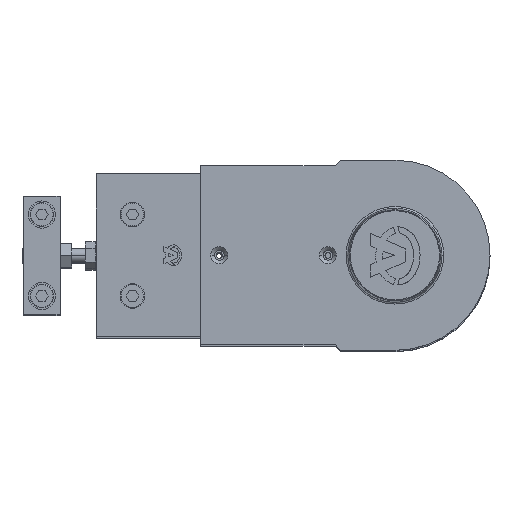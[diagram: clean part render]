
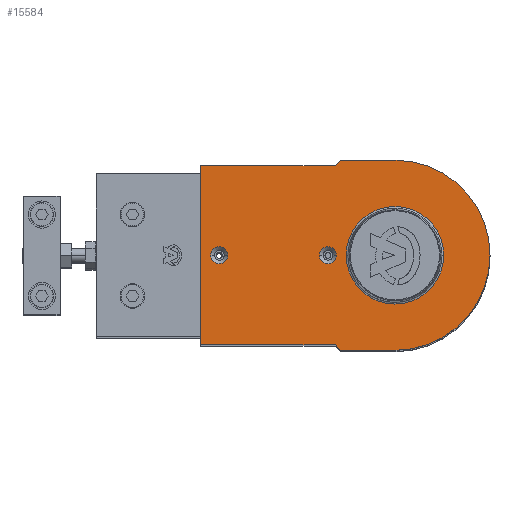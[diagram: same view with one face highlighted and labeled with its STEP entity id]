
A CAD part, top view. The second image highlights one B-rep face of the part: STEP entity #15584.
In plain terms, the highlighted planar face has unit normal (0, 0, 1).
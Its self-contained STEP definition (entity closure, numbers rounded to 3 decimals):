
#52 = ORIENTED_EDGE ( 'NONE', *, *, #10085, .T. ) ;
#514 = ORIENTED_EDGE ( 'NONE', *, *, #18884, .T. ) ;
#1211 = CARTESIAN_POINT ( 'NONE',  ( 107.5, 49.5, 0. ) ) ;
#1289 = LINE ( 'NONE', #9722, #18085 ) ;
#1523 = CIRCLE ( 'NONE', #4636, 4.7 ) ;
#1539 = DIRECTION ( 'NONE',  ( 1., 0., 0. ) ) ;
#1548 = CARTESIAN_POINT ( 'NONE',  ( 26.933, 0., 0. ) ) ;
#1627 = VERTEX_POINT ( 'NONE', #2914 ) ;
#1924 = LINE ( 'NONE', #5654, #10575 ) ;
#1994 = CARTESIAN_POINT ( 'NONE',  ( 0., 0., 0. ) ) ;
#2098 = DIRECTION ( 'NONE',  ( 1., 0., 0. ) ) ;
#2115 = VERTEX_POINT ( 'NONE', #18829 ) ;
#2247 = VERTEX_POINT ( 'NONE', #10979 ) ;
#2360 = AXIS2_PLACEMENT_3D ( 'NONE', #1994, #8679, #16645 ) ;
#2914 = CARTESIAN_POINT ( 'NONE',  ( 0., -52.5, 0. ) ) ;
#2922 = EDGE_LOOP ( 'NONE', ( #6644, #17046 ) ) ;
#3020 = AXIS2_PLACEMENT_3D ( 'NONE', #15273, #6959, #13482 ) ;
#3099 = EDGE_CURVE ( 'NONE', #15368, #15651, #14388, .T. ) ;
#3507 = FACE_BOUND ( 'NONE', #17435, .T. ) ;
#3887 = EDGE_LOOP ( 'NONE', ( #15491, #17709, #11322, #4602, #52, #514, #16163, #10273 ) ) ;
#4004 = CARTESIAN_POINT ( 'NONE',  ( 33., 49.5, 0. ) ) ;
#4340 = CARTESIAN_POINT ( 'NONE',  ( 0., 52.5, 0. ) ) ;
#4476 = CARTESIAN_POINT ( 'NONE',  ( 41.7, 0., 0. ) ) ;
#4602 = ORIENTED_EDGE ( 'NONE', *, *, #5659, .T. ) ;
#4636 = AXIS2_PLACEMENT_3D ( 'NONE', #10772, #17128, #5679 ) ;
#4654 = AXIS2_PLACEMENT_3D ( 'NONE', #5974, #7602, #10859 ) ;
#4820 = DIRECTION ( 'NONE',  ( 0.707, 0.707, 0. ) ) ;
#5139 = EDGE_CURVE ( 'NONE', #12649, #10604, #13801, .T. ) ;
#5504 = VERTEX_POINT ( 'NONE', #4476 ) ;
#5533 = VERTEX_POINT ( 'NONE', #1211 ) ;
#5654 = CARTESIAN_POINT ( 'NONE',  ( 107.5, -49.5, 0. ) ) ;
#5659 = EDGE_CURVE ( 'NONE', #15651, #11634, #8205, .T. ) ;
#5679 = DIRECTION ( 'NONE',  ( 1., 0., 0. ) ) ;
#5917 = VERTEX_POINT ( 'NONE', #7008 ) ;
#5974 = CARTESIAN_POINT ( 'NONE',  ( 0., 0., 0. ) ) ;
#6042 = DIRECTION ( 'NONE',  ( 0., 0., 1. ) ) ;
#6161 = CARTESIAN_POINT ( 'NONE',  ( 33., -49.5, 0. ) ) ;
#6320 = CARTESIAN_POINT ( 'NONE',  ( 30., 52.5, 0. ) ) ;
#6421 = EDGE_CURVE ( 'NONE', #2247, #8130, #6891, .T. ) ;
#6437 = AXIS2_PLACEMENT_3D ( 'NONE', #17960, #9987, #1539 ) ;
#6644 = ORIENTED_EDGE ( 'NONE', *, *, #9010, .F. ) ;
#6721 = EDGE_CURVE ( 'NONE', #5533, #15368, #13743, .T. ) ;
#6891 = CIRCLE ( 'NONE', #16423, 26.933 ) ;
#6959 = DIRECTION ( 'NONE',  ( 0., 0., 1. ) ) ;
#7008 = CARTESIAN_POINT ( 'NONE',  ( 33., -49.5, 0. ) ) ;
#7097 = CARTESIAN_POINT ( 'NONE',  ( 33., 49.5, 0. ) ) ;
#7139 = VECTOR ( 'NONE', #9418, 1000. ) ;
#7482 = DIRECTION ( 'NONE',  ( 0., 1., 0. ) ) ;
#7492 = LINE ( 'NONE', #6161, #14615 ) ;
#7602 = DIRECTION ( 'NONE',  ( 0., 0., 1. ) ) ;
#7827 = EDGE_CURVE ( 'NONE', #5504, #2115, #1523, .T. ) ;
#8018 = ORIENTED_EDGE ( 'NONE', *, *, #7827, .F. ) ;
#8063 = CIRCLE ( 'NONE', #6437, 52.5 ) ;
#8130 = VERTEX_POINT ( 'NONE', #1548 ) ;
#8205 = LINE ( 'NONE', #17851, #15068 ) ;
#8376 = DIRECTION ( 'NONE',  ( 1., 0., 0. ) ) ;
#8679 = DIRECTION ( 'NONE',  ( 0., 0., -1. ) ) ;
#9010 = EDGE_CURVE ( 'NONE', #10604, #12649, #15486, .T. ) ;
#9053 = ORIENTED_EDGE ( 'NONE', *, *, #6421, .T. ) ;
#9418 = DIRECTION ( 'NONE',  ( -1., 0., 0. ) ) ;
#9548 = CIRCLE ( 'NONE', #2360, 26.933 ) ;
#9722 = CARTESIAN_POINT ( 'NONE',  ( 107.5, -49.5, 0. ) ) ;
#9987 = DIRECTION ( 'NONE',  ( 0., 0., 1. ) ) ;
#10085 = EDGE_CURVE ( 'NONE', #11634, #1627, #8063, .T. ) ;
#10112 = DIRECTION ( 'NONE',  ( 0., 0., -1. ) ) ;
#10186 = CARTESIAN_POINT ( 'NONE',  ( 0., 0., 0. ) ) ;
#10255 = DIRECTION ( 'NONE',  ( 1., 0., 0. ) ) ;
#10273 = ORIENTED_EDGE ( 'NONE', *, *, #21010, .T. ) ;
#10575 = VECTOR ( 'NONE', #7482, 1000. ) ;
#10604 = VERTEX_POINT ( 'NONE', #16020 ) ;
#10772 = CARTESIAN_POINT ( 'NONE',  ( 37., 0., 0. ) ) ;
#10849 = EDGE_CURVE ( 'NONE', #8130, #2247, #9548, .T. ) ;
#10859 = DIRECTION ( 'NONE',  ( 1., 0., 0. ) ) ;
#10979 = CARTESIAN_POINT ( 'NONE',  ( -26.933, 0., 0. ) ) ;
#11322 = ORIENTED_EDGE ( 'NONE', *, *, #3099, .T. ) ;
#11392 = VERTEX_POINT ( 'NONE', #14833 ) ;
#11634 = VERTEX_POINT ( 'NONE', #4340 ) ;
#11805 = DIRECTION ( 'NONE',  ( 0., 0., 1. ) ) ;
#11913 = DIRECTION ( 'NONE',  ( -0.707, 0.707, 0. ) ) ;
#12387 = EDGE_CURVE ( 'NONE', #11392, #5917, #7492, .T. ) ;
#12424 = PLANE ( 'NONE',  #4654 ) ;
#12649 = VERTEX_POINT ( 'NONE', #19964 ) ;
#12739 = CARTESIAN_POINT ( 'NONE',  ( 107.5, 49.5, 0. ) ) ;
#12835 = EDGE_LOOP ( 'NONE', ( #20290, #9053 ) ) ;
#12941 = DIRECTION ( 'NONE',  ( 1., 0., 0. ) ) ;
#13482 = DIRECTION ( 'NONE',  ( 1., 0., 0. ) ) ;
#13659 = FACE_OUTER_BOUND ( 'NONE', #3887, .T. ) ;
#13743 = LINE ( 'NONE', #12739, #7139 ) ;
#13801 = CIRCLE ( 'NONE', #20247, 4.7 ) ;
#14388 = LINE ( 'NONE', #7097, #19246 ) ;
#14615 = VECTOR ( 'NONE', #4820, 1000. ) ;
#14833 = CARTESIAN_POINT ( 'NONE',  ( 30., -52.5, 0. ) ) ;
#14859 = CIRCLE ( 'NONE', #19430, 4.7 ) ;
#14934 = FACE_BOUND ( 'NONE', #12835, .T. ) ;
#15068 = VECTOR ( 'NONE', #17781, 1000. ) ;
#15238 = ORIENTED_EDGE ( 'NONE', *, *, #18390, .F. ) ;
#15273 = CARTESIAN_POINT ( 'NONE',  ( 97., 0., 0. ) ) ;
#15368 = VERTEX_POINT ( 'NONE', #4004 ) ;
#15486 = CIRCLE ( 'NONE', #3020, 4.7 ) ;
#15491 = ORIENTED_EDGE ( 'NONE', *, *, #16761, .T. ) ;
#15584 = ADVANCED_FACE ( 'NONE', ( #14934, #3507, #16479, #13659 ), #12424, .T. ) ;
#15651 = VERTEX_POINT ( 'NONE', #6320 ) ;
#15696 = CARTESIAN_POINT ( 'NONE',  ( 107.5, -49.5, 0. ) ) ;
#15774 = CARTESIAN_POINT ( 'NONE',  ( 97., 0., 0. ) ) ;
#16020 = CARTESIAN_POINT ( 'NONE',  ( 101.7, 0., 0. ) ) ;
#16163 = ORIENTED_EDGE ( 'NONE', *, *, #12387, .T. ) ;
#16232 = CARTESIAN_POINT ( 'NONE',  ( 30., -52.5, 0. ) ) ;
#16423 = AXIS2_PLACEMENT_3D ( 'NONE', #10186, #10112, #10255 ) ;
#16479 = FACE_BOUND ( 'NONE', #2922, .T. ) ;
#16645 = DIRECTION ( 'NONE',  ( 1., 0., 0. ) ) ;
#16761 = EDGE_CURVE ( 'NONE', #19802, #5533, #1924, .T. ) ;
#17046 = ORIENTED_EDGE ( 'NONE', *, *, #5139, .F. ) ;
#17128 = DIRECTION ( 'NONE',  ( 0., 0., 1. ) ) ;
#17435 = EDGE_LOOP ( 'NONE', ( #8018, #15238 ) ) ;
#17486 = DIRECTION ( 'NONE',  ( 1., 0., 0. ) ) ;
#17709 = ORIENTED_EDGE ( 'NONE', *, *, #6721, .T. ) ;
#17781 = DIRECTION ( 'NONE',  ( -1., 0., 0. ) ) ;
#17851 = CARTESIAN_POINT ( 'NONE',  ( 30., 52.5, 0. ) ) ;
#17960 = CARTESIAN_POINT ( 'NONE',  ( 0., 0., 0. ) ) ;
#18085 = VECTOR ( 'NONE', #8376, 1000. ) ;
#18317 = CARTESIAN_POINT ( 'NONE',  ( 37., 0., 0. ) ) ;
#18390 = EDGE_CURVE ( 'NONE', #2115, #5504, #14859, .T. ) ;
#18829 = CARTESIAN_POINT ( 'NONE',  ( 32.3, 0., 0. ) ) ;
#18884 = EDGE_CURVE ( 'NONE', #1627, #11392, #21001, .T. ) ;
#19246 = VECTOR ( 'NONE', #11913, 1000. ) ;
#19430 = AXIS2_PLACEMENT_3D ( 'NONE', #18317, #11805, #2098 ) ;
#19802 = VERTEX_POINT ( 'NONE', #15696 ) ;
#19964 = CARTESIAN_POINT ( 'NONE',  ( 92.3, 0., 0. ) ) ;
#20247 = AXIS2_PLACEMENT_3D ( 'NONE', #15774, #6042, #17486 ) ;
#20290 = ORIENTED_EDGE ( 'NONE', *, *, #10849, .T. ) ;
#20480 = VECTOR ( 'NONE', #12941, 1000. ) ;
#21001 = LINE ( 'NONE', #16232, #20480 ) ;
#21010 = EDGE_CURVE ( 'NONE', #5917, #19802, #1289, .T. ) ;
